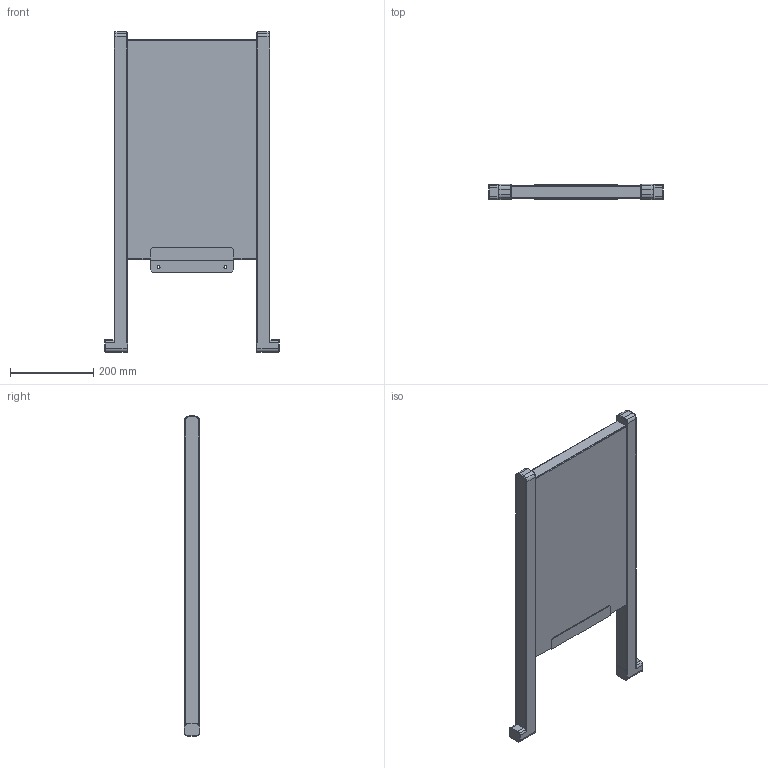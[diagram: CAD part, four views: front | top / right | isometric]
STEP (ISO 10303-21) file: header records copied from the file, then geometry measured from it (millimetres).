
FILE_DESCRIPTION(('STEP AP242'),'1');
FILE_NAME('OPO_53.540.27.stp','2025-11-08T20:33:18',(' '),(' '),'Spatial InterOp 3D',' ',' ');
FILE_SCHEMA(('AP242_MANAGED_MODEL_BASED_3D_ENGINEERING_MIM_LF {1 0 10303 442 1 1 4}'));
Length unit declared in the file: millimetre
Products named in the file (1): 1
Bounding box: 418 x 37 x 768 mm (x, y, z)
Volume: 7011835.7 mm3; surface area: 541526.7 mm2
Topology: 1 solids, 1 shells, 208 faces, 542 edges, 344 vertices
Faces by surface type: cylinder 118, plane 58, torus 28, bspline 4
Entity records: 8698 total; most frequent: CARTESIAN_POINT 1731, DIRECTION 1184, ORIENTED_EDGE 1084, EDGE_CURVE 542, AXIS2_PLACEMENT_3D 461, VERTEX_POINT 344, LINE 262, VECTOR 262
